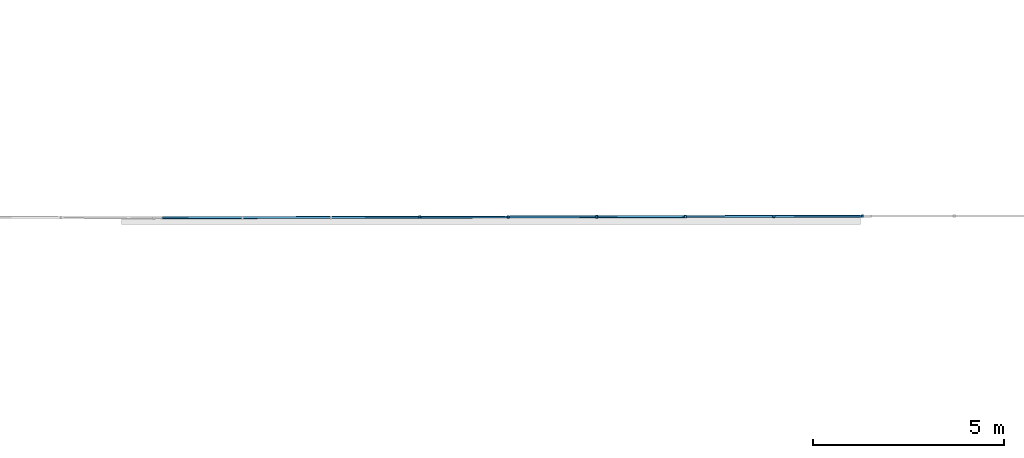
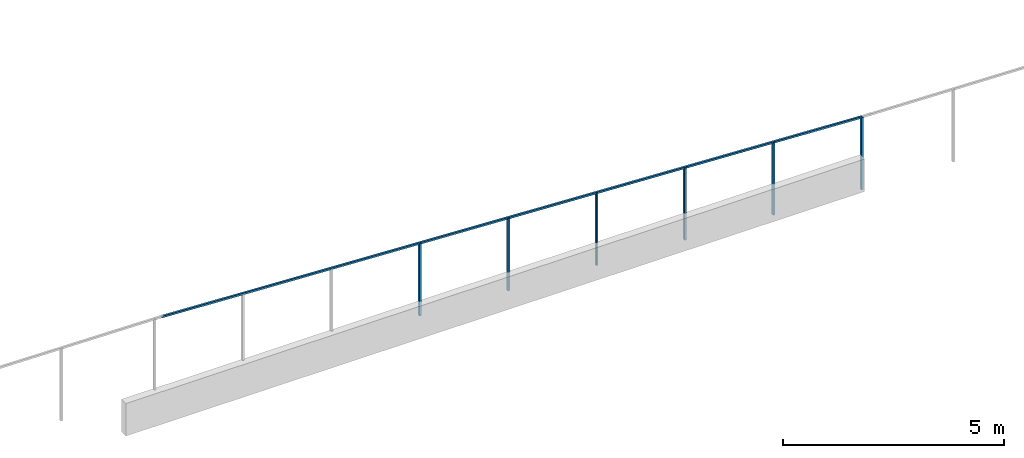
# One storey, part 63 of 91: 7 building element parts, 1 element without a shape of its own.
"""IFC2X3 building model written with IfcOpenShell, lengths in metres."""

from ifc_helpers import new_model, entity, si_unit, converted_unit, derived_unit, money_unit, direction, frame, origin_with_axes, place, context, subcontext, project, spatial, faceted_brep, material, type_object, element, aggregate, save


model = new_model("IFC2X3")

# Units and contexts
model_context = context("Model", 3, precision=1e-05, world=origin_with_axes(), true_north=direction((0.0, 1.0)))
body_context = subcontext(model_context, "Body", "Model", "MODEL_VIEW")
ifc_project = project(units=[si_unit("LENGTHUNIT", "METRE"), si_unit("AREAUNIT", "SQUARE_METRE"), si_unit("VOLUMEUNIT", "CUBIC_METRE"), converted_unit("PLANEANGLEUNIT", "DEGREE", entity("IfcPlaneAngleMeasure", 0.0174532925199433), si_unit("PLANEANGLEUNIT", "RADIAN"), dimensions=[0, 0, 0, 0, 0, 0, 0]), money_unit("EUR"), converted_unit("TIMEUNIT", "Year", entity("IfcTimeMeasure", 31557600.0), si_unit("TIMEUNIT", "SECOND"), dimensions=[0, 0, 1, 0, 0, 0, 0]), si_unit("MASSUNIT", "GRAM", prefix="KILO"), si_unit("THERMODYNAMICTEMPERATUREUNIT", "DEGREE_CELSIUS"), si_unit("LUMINOUSINTENSITYUNIT", "LUMEN"), si_unit("ENERGYUNIT", "JOULE", prefix="MEGA"), derived_unit("THERMALCONDUCTANCEUNIT", [(si_unit("POWERUNIT", "WATT"), 1), (si_unit("LENGTHUNIT", "METRE"), -1), (si_unit("THERMODYNAMICTEMPERATUREUNIT", "KELVIN"), -1)]), derived_unit("SPECIFICHEATCAPACITYUNIT", [(si_unit("ENERGYUNIT", "JOULE"), 1), (si_unit("MASSUNIT", "GRAM", prefix="KILO"), -1), (si_unit("THERMODYNAMICTEMPERATUREUNIT", "KELVIN"), -1)]), derived_unit("MASSDENSITYUNIT", [(si_unit("MASSUNIT", "GRAM", prefix="KILO"), 1), (si_unit("VOLUMEUNIT", "CUBIC_METRE"), -1)])], contexts=[model_context])

# Site, building, storey
site_placement = place(None, origin_with_axes())
site = spatial("IfcSite", under=ifc_project, at=site_placement, Name="Site", CompositionType="ELEMENT")
building_placement = place(site_placement, origin_with_axes())
building = spatial("IfcBuilding", under=site, at=building_placement, Name="Bâtiment", CompositionType="ELEMENT")
storey_placement = place(building_placement, origin_with_axes())
storey = spatial("IfcBuildingStorey", under=building, at=storey_placement, Name="RDC", CompositionType="ELEMENT", Elevation=0.0)

# Proxy, building element parts
building_element_proxy_type = type_object("IfcBuildingElementProxyType", Name="Type de garde-corps", PredefinedType="NOTDEFINED")
proxy_placement = place(storey_placement, frame((79.63337255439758, 3.614023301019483, -2.37161404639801), z_axis=(0.0, 0.0, 1.0), x_axis=(1.0, 0.0, 0.0)))
proxy = element("IfcBuildingElementProxy", 1, at=proxy_placement, inside=storey, type_object=building_element_proxy_type, Name="RAMPE-004")
ifc_material = material(Name="Acier Galva")
building_element_part_1_placement = place(proxy_placement, origin_with_axes())
building_element_part_1 = element("IfcBuildingElementPart", 2, at=building_element_part_1_placement, material=ifc_material, Name="Acier Galva", context=body_context, shape_type="Brep", body=[
    faceted_brep([(-51.45530709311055, 3.422344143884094, 2.292565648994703), (-51.45531915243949, 3.356344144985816, 2.292569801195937), (-51.45531915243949, 3.356344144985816, 4.292569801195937), (-51.45530709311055, 3.422344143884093, 4.292565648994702), (-51.40530709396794, 3.422334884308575, 2.290599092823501), (-51.40531915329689, 3.356334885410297, 2.290603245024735), (-51.40531915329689, 3.356334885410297, 4.290603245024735), (-51.40530709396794, 3.422334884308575, 4.2905990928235)], [[[0, 1, 2, 3]], [[0, 4, 5, 1]], [[1, 5, 6, 2]], [[3, 2, 6, 7]], [[4, 0, 3, 7]], [[5, 4, 7, 6]]]),
])
building_element_part_2_placement = place(proxy_placement, origin_with_axes())
building_element_part_2 = element("IfcBuildingElementPart", 3, at=building_element_part_2_placement, material=ifc_material, Name="Acier Galva", context=body_context, shape_type="Brep", body=[
    faceted_brep([(-51.42971394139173, 3.414340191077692, 4.316585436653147), (-51.43096590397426, 3.41433884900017, 4.26658543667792), (-69.79483511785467, 3.371536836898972, 5.186798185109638), (-51.42966034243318, 3.364340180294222, 4.316585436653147), (-51.43091230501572, 3.3643388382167, 4.26658543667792), (-69.79471858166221, 3.321536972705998, 5.186798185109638), (-69.7448352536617, 3.371653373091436, 5.23435542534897), (-69.74471871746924, 3.321653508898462, 5.23435542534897)], [[[0, 1, 2]], [[0, 3, 4, 1]], [[1, 5, 2]], [[0, 2, 6]], [[3, 0, 6]], [[4, 3, 7]], [[1, 4, 5]], [[6, 2, 5, 7]], [[3, 6, 7]], [[4, 7, 5]]]),
])
building_element_part_3_placement = place(proxy_placement, origin_with_axes())
building_element_part_3 = element("IfcBuildingElementPart", 4, at=building_element_part_3_placement, material=ifc_material, Name="Acier Galva", context=body_context, shape_type="Brep", body=[
    faceted_brep([(-53.772822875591, 3.416879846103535, 2.408964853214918), (-53.77266904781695, 3.350880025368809, 2.408964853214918), (-53.77266904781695, 3.350880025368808, 4.408964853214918), (-53.772822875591, 3.416879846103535, 4.408964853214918), (-53.72282301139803, 3.416996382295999, 2.406459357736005), (-53.72266918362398, 3.350996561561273, 2.406459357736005), (-53.72266918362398, 3.350996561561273, 4.406459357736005), (-53.72282301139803, 3.416996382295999, 4.406459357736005)], [[[0, 1, 2, 3]], [[0, 4, 5, 1]], [[1, 5, 6, 2]], [[3, 2, 6, 7]], [[4, 0, 3, 7]], [[5, 4, 7, 6]]]),
])
building_element_part_4_placement = place(proxy_placement, origin_with_axes())
building_element_part_4 = element("IfcBuildingElementPart", 5, at=building_element_part_4_placement, material=ifc_material, Name="Acier Galva", context=body_context, shape_type="Brep", body=[
    faceted_brep([(-56.09025578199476, 3.411478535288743, 2.525091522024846), (-56.09010195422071, 3.345478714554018, 2.525091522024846), (-56.09010195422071, 3.345478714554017, 4.525091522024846), (-56.09025578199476, 3.411478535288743, 4.525091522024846), (-56.04025591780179, 3.411595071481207, 2.522586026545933), (-56.04010209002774, 3.345595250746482, 2.522586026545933), (-56.04010209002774, 3.345595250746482, 4.522586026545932), (-56.04025591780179, 3.411595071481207, 4.522586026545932)], [[[0, 1, 2, 3]], [[0, 4, 5, 1]], [[1, 5, 6, 2]], [[3, 2, 6, 7]], [[4, 0, 3, 7]], [[5, 4, 7, 6]]]),
])
building_element_part_5_placement = place(proxy_placement, origin_with_axes())
building_element_part_5 = element("IfcBuildingElementPart", 6, at=building_element_part_5_placement, material=ifc_material, Name="Acier Galva", context=body_context, shape_type="Brep", body=[
    faceted_brep([(-58.40768868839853, 3.406077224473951, 2.641218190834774), (-58.40753486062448, 3.340077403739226, 2.641218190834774), (-58.40753486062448, 3.340077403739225, 4.641218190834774), (-58.40768868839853, 3.406077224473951, 4.641218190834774), (-58.35768882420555, 3.406193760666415, 2.63871269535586), (-58.3575349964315, 3.34019393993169, 2.63871269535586), (-58.3575349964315, 3.34019393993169, 4.63871269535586), (-58.35768882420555, 3.406193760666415, 4.63871269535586)], [[[0, 1, 2, 3]], [[0, 4, 5, 1]], [[1, 5, 6, 2]], [[3, 2, 6, 7]], [[4, 0, 3, 7]], [[5, 4, 7, 6]]]),
])
building_element_part_6_placement = place(proxy_placement, origin_with_axes())
building_element_part_6 = element("IfcBuildingElementPart", 7, at=building_element_part_6_placement, material=ifc_material, Name="Acier Galva", context=body_context, shape_type="Brep", body=[
    faceted_brep([(-60.7251215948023, 3.400675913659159, 2.757344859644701), (-60.72496776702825, 3.334676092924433, 2.757344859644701), (-60.72496776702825, 3.334676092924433, 4.757344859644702), (-60.7251215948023, 3.400675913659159, 4.757344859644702), (-60.67512173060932, 3.400792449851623, 2.754839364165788), (-60.67496790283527, 3.334792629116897, 2.754839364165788), (-60.67496790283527, 3.334792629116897, 4.754839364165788), (-60.67512173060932, 3.400792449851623, 4.754839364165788)], [[[0, 1, 2, 3]], [[0, 4, 5, 1]], [[1, 5, 6, 2]], [[3, 2, 6, 7]], [[4, 0, 3, 7]], [[5, 4, 7, 6]]]),
])
building_element_part_7_placement = place(proxy_placement, origin_with_axes())
building_element_part_7 = element("IfcBuildingElementPart", 8, at=building_element_part_7_placement, material=ifc_material, Name="Acier Galva", context=body_context, shape_type="Brep", body=[
    faceted_brep([(-63.04255450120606, 3.395274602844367, 2.873471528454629), (-63.04240067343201, 3.329274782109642, 2.873471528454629), (-63.04240067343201, 3.329274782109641, 4.87347152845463), (-63.04255450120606, 3.395274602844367, 4.87347152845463), (-62.99255463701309, 3.395391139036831, 2.870966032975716), (-62.99240080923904, 3.329391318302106, 2.870966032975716), (-62.99240080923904, 3.329391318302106, 4.870966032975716), (-62.99255463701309, 3.395391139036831, 4.870966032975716)], [[[0, 1, 2, 3]], [[0, 4, 5, 1]], [[1, 5, 6, 2]], [[3, 2, 6, 7]], [[4, 0, 3, 7]], [[5, 4, 7, 6]]]),
])
aggregate(proxy, [building_element_part_1, building_element_part_2, building_element_part_3, building_element_part_4, building_element_part_5, building_element_part_6, building_element_part_7])

save(model, "model.ifc")
